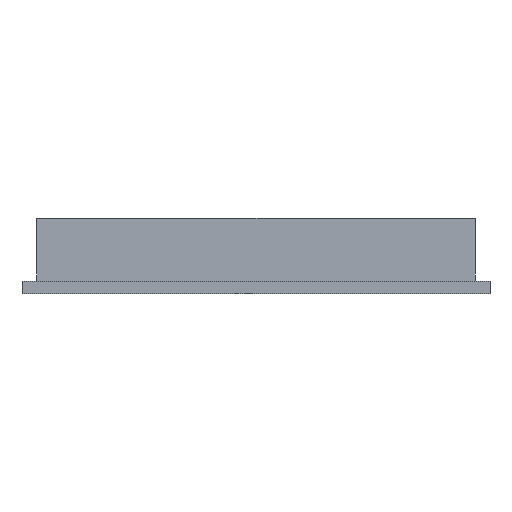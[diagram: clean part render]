
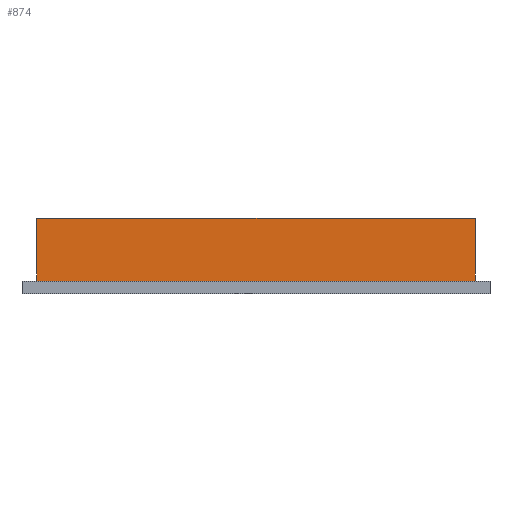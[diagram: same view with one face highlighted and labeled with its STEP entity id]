
A CAD part, front view. The second image highlights one B-rep face of the part: STEP entity #874.
In plain terms, the highlighted planar face has unit normal (0, -1, 0).
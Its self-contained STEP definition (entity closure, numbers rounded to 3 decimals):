
#126 = PLANE('',#127);
#127 = AXIS2_PLACEMENT_3D('',#128,#129,#130);
#128 = CARTESIAN_POINT('',(0.,0.,3.));
#129 = DIRECTION('',(0.,0.,1.));
#130 = DIRECTION('',(1.,0.,0.));
#266 = VERTEX_POINT('',#267);
#267 = CARTESIAN_POINT('',(3.55,3.55,3.));
#283 = PLANE('',#284);
#284 = AXIS2_PLACEMENT_3D('',#285,#286,#287);
#285 = CARTESIAN_POINT('',(3.55,3.55,3.));
#286 = DIRECTION('',(1.,0.,0.));
#287 = DIRECTION('',(0.,0.,1.));
#324 = VERTEX_POINT('',#325);
#325 = CARTESIAN_POINT('',(108.45,3.55,3.));
#339 = PLANE('',#340);
#340 = AXIS2_PLACEMENT_3D('',#341,#342,#343);
#341 = CARTESIAN_POINT('',(108.45,3.55,3.));
#342 = DIRECTION('',(1.,0.,0.));
#343 = DIRECTION('',(0.,0.,1.));
#351 = EDGE_CURVE('',#324,#266,#352,.T.);
#352 = SURFACE_CURVE('',#353,(#357,#364),.PCURVE_S1.);
#353 = LINE('',#354,#355);
#354 = CARTESIAN_POINT('',(108.45,3.55,3.));
#355 = VECTOR('',#356,1.);
#356 = DIRECTION('',(-1.,0.,0.));
#357 = PCURVE('',#126,#358);
#358 = DEFINITIONAL_REPRESENTATION('',(#359),#363);
#359 = LINE('',#360,#361);
#360 = CARTESIAN_POINT('',(108.45,3.55));
#361 = VECTOR('',#362,1.);
#362 = DIRECTION('',(-1.,0.));
#363 = ( GEOMETRIC_REPRESENTATION_CONTEXT(2) 
PARAMETRIC_REPRESENTATION_CONTEXT() REPRESENTATION_CONTEXT('2D SPACE',''
  ) );
#364 = PCURVE('',#365,#370);
#365 = PLANE('',#366);
#366 = AXIS2_PLACEMENT_3D('',#367,#368,#369);
#367 = CARTESIAN_POINT('',(3.55,3.55,3.));
#368 = DIRECTION('',(0.,1.,0.));
#369 = DIRECTION('',(0.,0.,1.));
#370 = DEFINITIONAL_REPRESENTATION('',(#371),#375);
#371 = LINE('',#372,#373);
#372 = CARTESIAN_POINT('',(0.,104.9));
#373 = VECTOR('',#374,1.);
#374 = DIRECTION('',(0.,-1.));
#375 = ( GEOMETRIC_REPRESENTATION_CONTEXT(2) 
PARAMETRIC_REPRESENTATION_CONTEXT() REPRESENTATION_CONTEXT('2D SPACE',''
  ) );
#638 = EDGE_CURVE('',#266,#639,#641,.T.);
#639 = VERTEX_POINT('',#640);
#640 = CARTESIAN_POINT('',(3.55,3.55,18.));
#641 = SURFACE_CURVE('',#642,(#646,#653),.PCURVE_S1.);
#642 = LINE('',#643,#644);
#643 = CARTESIAN_POINT('',(3.55,3.55,3.));
#644 = VECTOR('',#645,1.);
#645 = DIRECTION('',(0.,0.,1.));
#646 = PCURVE('',#283,#647);
#647 = DEFINITIONAL_REPRESENTATION('',(#648),#652);
#648 = LINE('',#649,#650);
#649 = CARTESIAN_POINT('',(0.,0.));
#650 = VECTOR('',#651,1.);
#651 = DIRECTION('',(1.,0.));
#652 = ( GEOMETRIC_REPRESENTATION_CONTEXT(2) 
PARAMETRIC_REPRESENTATION_CONTEXT() REPRESENTATION_CONTEXT('2D SPACE',''
  ) );
#653 = PCURVE('',#365,#654);
#654 = DEFINITIONAL_REPRESENTATION('',(#655),#659);
#655 = LINE('',#656,#657);
#656 = CARTESIAN_POINT('',(0.,0.));
#657 = VECTOR('',#658,1.);
#658 = DIRECTION('',(1.,0.));
#659 = ( GEOMETRIC_REPRESENTATION_CONTEXT(2) 
PARAMETRIC_REPRESENTATION_CONTEXT() REPRESENTATION_CONTEXT('2D SPACE',''
  ) );
#699 = PLANE('',#700);
#700 = AXIS2_PLACEMENT_3D('',#701,#702,#703);
#701 = CARTESIAN_POINT('',(3.55,3.55,18.));
#702 = DIRECTION('',(0.,0.,1.));
#703 = DIRECTION('',(1.,0.,0.));
#798 = EDGE_CURVE('',#324,#799,#801,.T.);
#799 = VERTEX_POINT('',#800);
#800 = CARTESIAN_POINT('',(108.45,3.55,18.));
#801 = SURFACE_CURVE('',#802,(#806,#813),.PCURVE_S1.);
#802 = LINE('',#803,#804);
#803 = CARTESIAN_POINT('',(108.45,3.55,3.));
#804 = VECTOR('',#805,1.);
#805 = DIRECTION('',(0.,0.,1.));
#806 = PCURVE('',#339,#807);
#807 = DEFINITIONAL_REPRESENTATION('',(#808),#812);
#808 = LINE('',#809,#810);
#809 = CARTESIAN_POINT('',(0.,0.));
#810 = VECTOR('',#811,1.);
#811 = DIRECTION('',(1.,0.));
#812 = ( GEOMETRIC_REPRESENTATION_CONTEXT(2) 
PARAMETRIC_REPRESENTATION_CONTEXT() REPRESENTATION_CONTEXT('2D SPACE',''
  ) );
#813 = PCURVE('',#365,#814);
#814 = DEFINITIONAL_REPRESENTATION('',(#815),#819);
#815 = LINE('',#816,#817);
#816 = CARTESIAN_POINT('',(0.,104.9));
#817 = VECTOR('',#818,1.);
#818 = DIRECTION('',(1.,0.));
#819 = ( GEOMETRIC_REPRESENTATION_CONTEXT(2) 
PARAMETRIC_REPRESENTATION_CONTEXT() REPRESENTATION_CONTEXT('2D SPACE',''
  ) );
#874 = ADVANCED_FACE('',(#875),#365,.F.);
#875 = FACE_BOUND('',#876,.F.);
#876 = EDGE_LOOP('',(#877,#878,#899,#900));
#877 = ORIENTED_EDGE('',*,*,#638,.T.);
#878 = ORIENTED_EDGE('',*,*,#879,.F.);
#879 = EDGE_CURVE('',#799,#639,#880,.T.);
#880 = SURFACE_CURVE('',#881,(#885,#892),.PCURVE_S1.);
#881 = LINE('',#882,#883);
#882 = CARTESIAN_POINT('',(108.45,3.55,18.));
#883 = VECTOR('',#884,1.);
#884 = DIRECTION('',(-1.,0.,0.));
#885 = PCURVE('',#365,#886);
#886 = DEFINITIONAL_REPRESENTATION('',(#887),#891);
#887 = LINE('',#888,#889);
#888 = CARTESIAN_POINT('',(15.,104.9));
#889 = VECTOR('',#890,1.);
#890 = DIRECTION('',(0.,-1.));
#891 = ( GEOMETRIC_REPRESENTATION_CONTEXT(2) 
PARAMETRIC_REPRESENTATION_CONTEXT() REPRESENTATION_CONTEXT('2D SPACE',''
  ) );
#892 = PCURVE('',#699,#893);
#893 = DEFINITIONAL_REPRESENTATION('',(#894),#898);
#894 = LINE('',#895,#896);
#895 = CARTESIAN_POINT('',(104.9,0.));
#896 = VECTOR('',#897,1.);
#897 = DIRECTION('',(-1.,0.));
#898 = ( GEOMETRIC_REPRESENTATION_CONTEXT(2) 
PARAMETRIC_REPRESENTATION_CONTEXT() REPRESENTATION_CONTEXT('2D SPACE',''
  ) );
#899 = ORIENTED_EDGE('',*,*,#798,.F.);
#900 = ORIENTED_EDGE('',*,*,#351,.T.);
